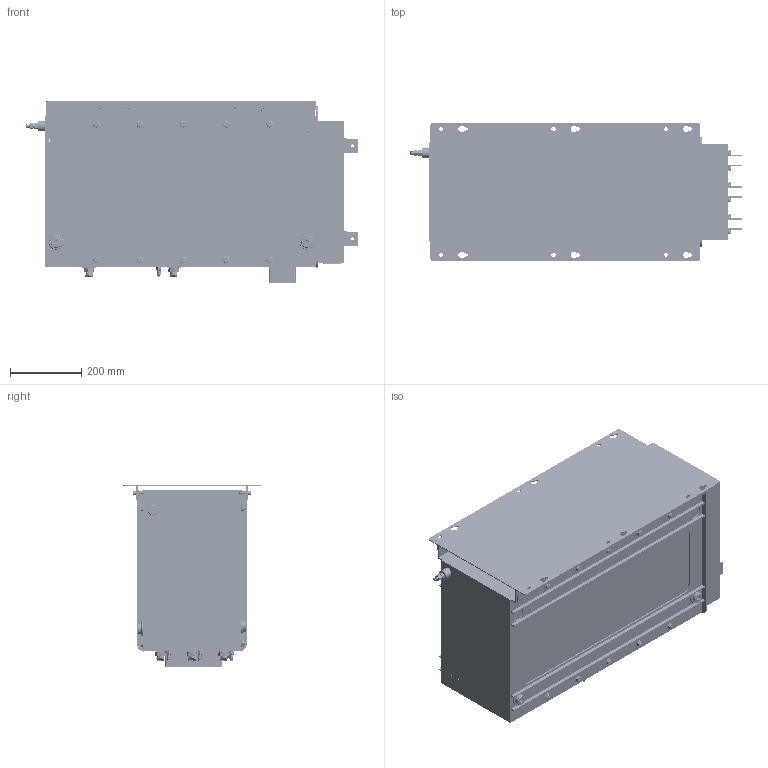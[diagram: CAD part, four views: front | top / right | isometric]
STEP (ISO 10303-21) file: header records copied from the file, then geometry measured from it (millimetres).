
FILE_DESCRIPTION (( 'STEP AP203' ), '1' );
FILE_NAME ('倳昃-3C IP21.STEP', '2024-04-06T17:52:45', ( '' ), ( '' ), 'SwSTEP 2.0', 'SolidWorks 2020', '' );
FILE_SCHEMA (( 'CONFIG_CONTROL_DESIGN' ));
Products named in the file (1): 倳昃-3C IP21
Bounding box: 929.98 x 385 x 511.5 mm (x, y, z)
Volume: 92981919.7 mm3; surface area: 6242850.5 mm2
Topology: 196 solids, 307 shells, 12651 faces, 31254 edges, 19816 vertices
Faces by surface type: cylinder 5608, plane 4963, torus 818, cone 679, bspline 543, sphere 40
Entity records: 618271 total; most frequent: CARTESIAN_POINT 333344, ORIENTED_EDGE 62028, DIRECTION 57310, EDGE_CURVE 31014, AXIS2_PLACEMENT_3D 21103, VERTEX_POINT 19816, VECTOR 15104, LINE 15104
